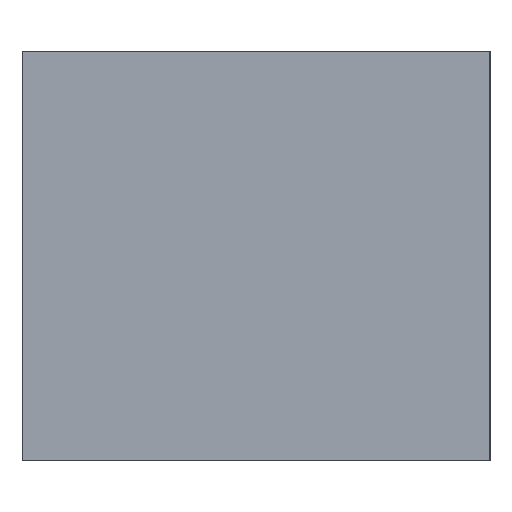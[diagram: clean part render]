
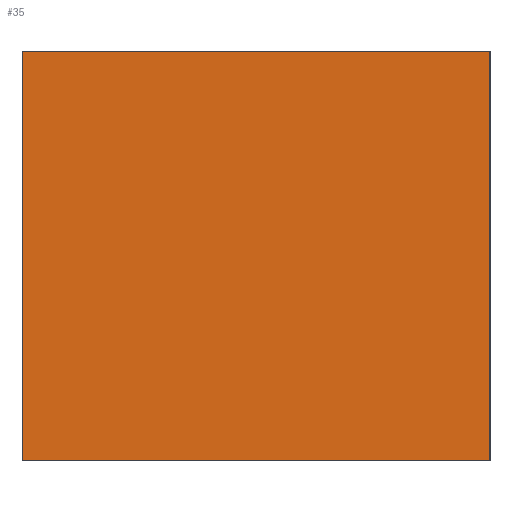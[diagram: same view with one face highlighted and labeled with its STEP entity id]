
A CAD part, left-side view. The second image highlights one B-rep face of the part: STEP entity #35.
In plain terms, the highlighted planar face has unit normal (-1, 0, 0).
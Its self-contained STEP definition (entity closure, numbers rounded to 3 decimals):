
#35=ADVANCED_FACE('',(#47),#351,.T.);
#47=FACE_OUTER_BOUND('',#59,.T.);
#59=EDGE_LOOP('',(#71,#72,#73,#74));
#71=ORIENTED_EDGE('',*,*,#239,.T.);
#72=ORIENTED_EDGE('',*,*,#240,.T.);
#73=ORIENTED_EDGE('',*,*,#241,.T.);
#74=ORIENTED_EDGE('',*,*,#242,.T.);
#119=PCURVE('',#351,#167);
#120=PCURVE('',#351,#168);
#121=PCURVE('',#351,#169);
#122=PCURVE('',#351,#170);
#126=PCURVE('',#352,#174);
#132=PCURVE('',#354,#180);
#138=PCURVE('',#355,#186);
#139=PCURVE('',#356,#187);
#167=DEFINITIONAL_REPRESENTATION('',(#264),#586);
#168=DEFINITIONAL_REPRESENTATION('',(#266),#586);
#169=DEFINITIONAL_REPRESENTATION('',(#268),#586);
#170=DEFINITIONAL_REPRESENTATION('',(#270),#586);
#174=DEFINITIONAL_REPRESENTATION('',(#277),#586);
#180=DEFINITIONAL_REPRESENTATION('',(#287),#586);
#186=DEFINITIONAL_REPRESENTATION('',(#294),#586);
#187=DEFINITIONAL_REPRESENTATION('',(#295),#586);
#215=SURFACE_CURVE('',#263,(#119,#138),.PCURVE_S1.);
#216=SURFACE_CURVE('',#265,(#120,#126),.PCURVE_S1.);
#217=SURFACE_CURVE('',#267,(#121,#139),.PCURVE_S1.);
#218=SURFACE_CURVE('',#269,(#122,#132),.PCURVE_S1.);
#239=EDGE_CURVE('',#335,#336,#215,.T.);
#240=EDGE_CURVE('',#336,#337,#216,.T.);
#241=EDGE_CURVE('',#337,#338,#217,.T.);
#242=EDGE_CURVE('',#338,#335,#218,.T.);
#263=B_SPLINE_CURVE_WITH_KNOTS('',1,(#427,#428),.UNSPECIFIED.,.F.,.F.,(2,
2),(-80.,-60.),.UNSPECIFIED.);
#264=B_SPLINE_CURVE_WITH_KNOTS('',1,(#429,#430),.UNSPECIFIED.,.F.,.F.,(2,
2),(-80.,-60.),.UNSPECIFIED.);
#265=B_SPLINE_CURVE_WITH_KNOTS('',1,(#431,#432),.UNSPECIFIED.,.F.,.F.,(2,
2),(0.,80.),.UNSPECIFIED.);
#266=B_SPLINE_CURVE_WITH_KNOTS('',1,(#433,#434),.UNSPECIFIED.,.F.,.F.,(2,
2),(0.,80.),.UNSPECIFIED.);
#267=B_SPLINE_CURVE_WITH_KNOTS('',1,(#435,#436),.UNSPECIFIED.,.F.,.F.,(2,
2),(60.,80.),.UNSPECIFIED.);
#268=B_SPLINE_CURVE_WITH_KNOTS('',1,(#437,#438),.UNSPECIFIED.,.F.,.F.,(2,
2),(60.,80.),.UNSPECIFIED.);
#269=B_SPLINE_CURVE_WITH_KNOTS('',1,(#439,#440),.UNSPECIFIED.,.F.,.F.,(2,
2),(-80.,0.),.UNSPECIFIED.);
#270=B_SPLINE_CURVE_WITH_KNOTS('',1,(#441,#442),.UNSPECIFIED.,.F.,.F.,(2,
2),(-80.,0.),.UNSPECIFIED.);
#277=B_SPLINE_CURVE_WITH_KNOTS('',1,(#455,#456),.UNSPECIFIED.,.F.,.F.,(2,
2),(0.,80.),.UNSPECIFIED.);
#287=B_SPLINE_CURVE_WITH_KNOTS('',1,(#475,#476),.UNSPECIFIED.,.F.,.F.,(2,
2),(-80.,0.),.UNSPECIFIED.);
#294=B_SPLINE_CURVE_WITH_KNOTS('',1,(#489,#490),.UNSPECIFIED.,.F.,.F.,(2,
2),(-80.,-60.),.UNSPECIFIED.);
#295=B_SPLINE_CURVE_WITH_KNOTS('',1,(#491,#492),.UNSPECIFIED.,.F.,.F.,(2,
2),(60.,80.),.UNSPECIFIED.);
#335=VERTEX_POINT('',#419);
#336=VERTEX_POINT('',#420);
#337=VERTEX_POINT('',#421);
#338=VERTEX_POINT('',#422);
#351=PLANE('',#383);
#352=PLANE('',#384);
#354=PLANE('',#386);
#355=PLANE('',#387);
#356=PLANE('',#388);
#383=AXIS2_PLACEMENT_3D('',#413,#398,$);
#384=AXIS2_PLACEMENT_3D('',#414,#399,$);
#386=AXIS2_PLACEMENT_3D('',#416,#401,$);
#387=AXIS2_PLACEMENT_3D('',#417,#402,$);
#388=AXIS2_PLACEMENT_3D('',#418,#403,$);
#398=DIRECTION('',(-1.,0.,0.));
#399=DIRECTION('',(0.,0.,1.));
#401=DIRECTION('',(0.,0.,-1.));
#402=DIRECTION('',(0.,-1.,0.));
#403=DIRECTION('',(0.,1.,0.));
#413=CARTESIAN_POINT('',(-755.,15.,-16.));
#414=CARTESIAN_POINT('',(-755.,15.,54.));
#416=CARTESIAN_POINT('',(-735.,15.,-16.));
#417=CARTESIAN_POINT('',(-735.,15.,-16.));
#418=CARTESIAN_POINT('',(-735.,95.,-16.));
#419=CARTESIAN_POINT('',(-755.,15.,-16.));
#420=CARTESIAN_POINT('',(-755.,15.,54.));
#421=CARTESIAN_POINT('',(-755.,95.,54.));
#422=CARTESIAN_POINT('',(-755.,95.,-16.));
#427=CARTESIAN_POINT('',(-755.,15.,-16.));
#428=CARTESIAN_POINT('',(-755.,15.,54.));
#429=CARTESIAN_POINT('',(-80.,0.));
#430=CARTESIAN_POINT('',(-60.,0.));
#431=CARTESIAN_POINT('',(-755.,15.,54.));
#432=CARTESIAN_POINT('',(-755.,95.,54.));
#433=CARTESIAN_POINT('',(-60.,0.));
#434=CARTESIAN_POINT('',(-60.,80.));
#435=CARTESIAN_POINT('',(-755.,95.,54.));
#436=CARTESIAN_POINT('',(-755.,95.,-16.));
#437=CARTESIAN_POINT('',(-60.,80.));
#438=CARTESIAN_POINT('',(-80.,80.));
#439=CARTESIAN_POINT('',(-755.,95.,-16.));
#440=CARTESIAN_POINT('',(-755.,15.,-16.));
#441=CARTESIAN_POINT('',(-80.,80.));
#442=CARTESIAN_POINT('',(-80.,0.));
#455=CARTESIAN_POINT('',(-60.,0.));
#456=CARTESIAN_POINT('',(-60.,80.));
#475=CARTESIAN_POINT('',(0.,80.));
#476=CARTESIAN_POINT('',(0.,0.));
#489=CARTESIAN_POINT('',(0.,0.));
#490=CARTESIAN_POINT('',(70.,0.));
#491=CARTESIAN_POINT('',(0.,70.));
#492=CARTESIAN_POINT('',(0.,0.));
#586=(
GEOMETRIC_REPRESENTATION_CONTEXT(2)
PARAMETRIC_REPRESENTATION_CONTEXT()
REPRESENTATION_CONTEXT('pspace','')
);
